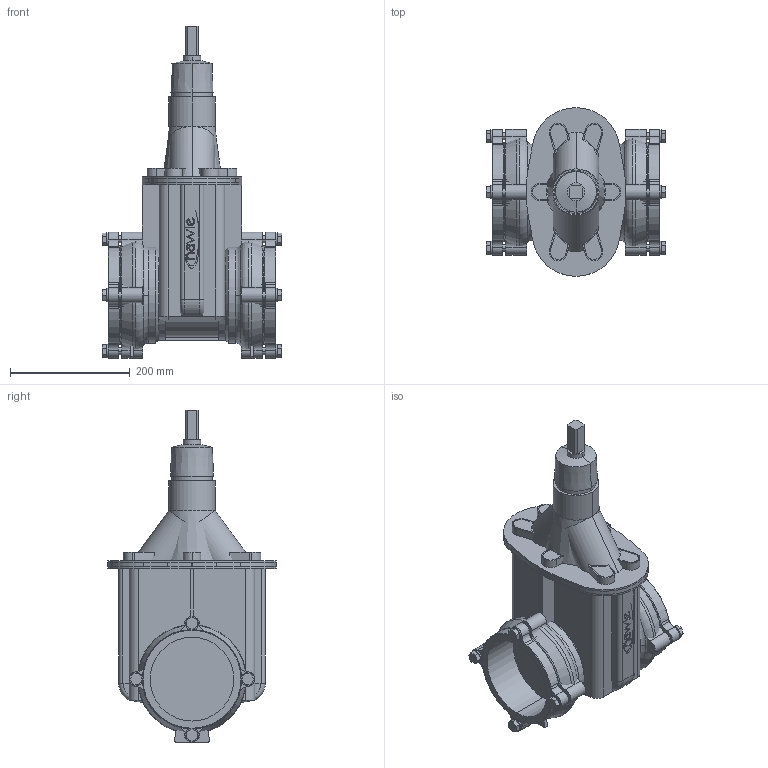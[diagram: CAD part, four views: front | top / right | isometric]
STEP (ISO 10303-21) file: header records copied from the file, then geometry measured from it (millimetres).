
FILE_DESCRIPTION(('STEP AP214'),'1');
FILE_NAME('S:/EK/USER/CAT6/3DHomepage/4040E2/4040E2-PN16-DN125-140.STP','2012-04-24T11:11:20',(' '),(' '),'Spatial InterOp 3D',' ',' ');
FILE_SCHEMA(('automotive_design'));
Length unit declared in the file: millimetre
Products named in the file (93): 3D-Objekt
Bounding box: 300 x 281.98 x 555 mm (x, y, z)
Volume: 11733656.4 mm3; surface area: 1157998.7 mm2
Topology: 93 solids, 93 shells, 764 faces, 1714 edges, 1140 vertices
Faces by surface type: plane 424, cylinder 294, torus 28, cone 14, bspline 4
Entity records: 29799 total; most frequent: DIRECTION 4124, CARTESIAN_POINT 3779, ORIENTED_EDGE 3428, EDGE_CURVE 1714, AXIS2_PLACEMENT_3D 1557, VERTEX_POINT 1140, LINE 1010, VECTOR 1010
